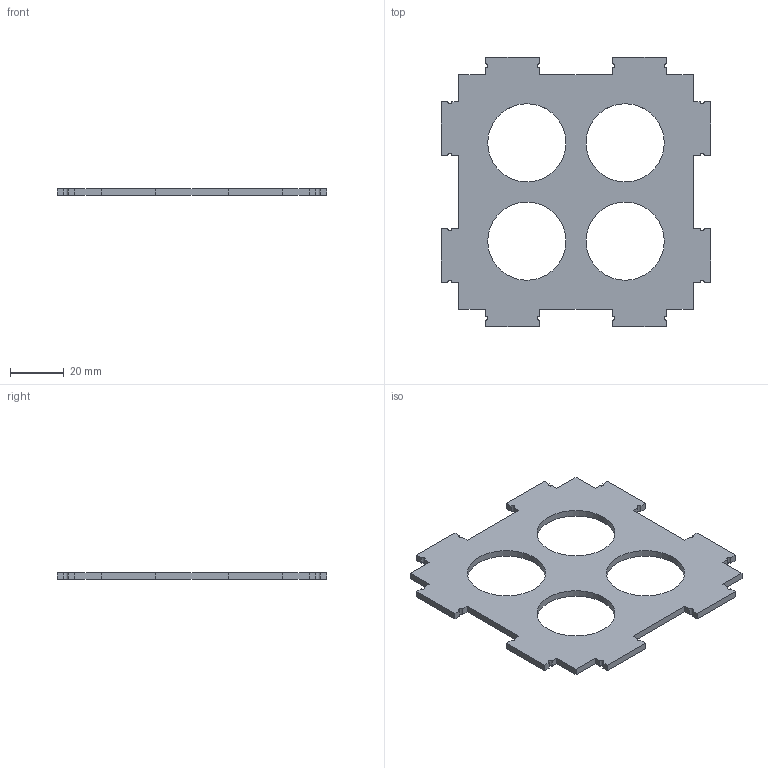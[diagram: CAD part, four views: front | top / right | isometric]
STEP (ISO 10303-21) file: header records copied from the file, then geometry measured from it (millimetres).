
FILE_DESCRIPTION(/* description */ (''),/* implementation_level */ '2;1');
FILE_NAME(/* name */ 'C:\Users\valen\Desktop\Estandar CubeSat - Programa AVES-20220531T050024Z-001\Estandar CubeSat - Programa AVES\3D - MODELS\STEP\2.Lateral derecha .stp',/* time_stamp */ '2022-05-31T02:21:02-05:00',/* author */ ('valen'),/* organization */ (''),/* preprocessor_version */ 'ST-DEVELOPER v18.1',/* originating_system */ 'Autodesk Inventor 2022',/* authorisation */ '');
FILE_SCHEMA (('AUTOMOTIVE_DESIGN { 1 0 10303 214 3 1 1 }'));
Length unit declared in the file: millimetre
Products named in the file (1): Tubos supCara 1 (4 unidades)
Bounding box: 100 x 100 x 2.5 mm (x, y, z)
Volume: 14877.1 mm3; surface area: 13979.3 mm2
Topology: 1 solids, 1 shells, 74 faces, 216 edges, 144 vertices
Faces by surface type: plane 54, cylinder 20
Full cylindrical faces by diameter (mm): 29 x4
Entity records: 2508 total; most frequent: CARTESIAN_POINT 436, ORIENTED_EDGE 432, DIRECTION 406, EDGE_CURVE 216, LINE 176, VECTOR 176, VERTEX_POINT 144, AXIS2_PLACEMENT_3D 115
